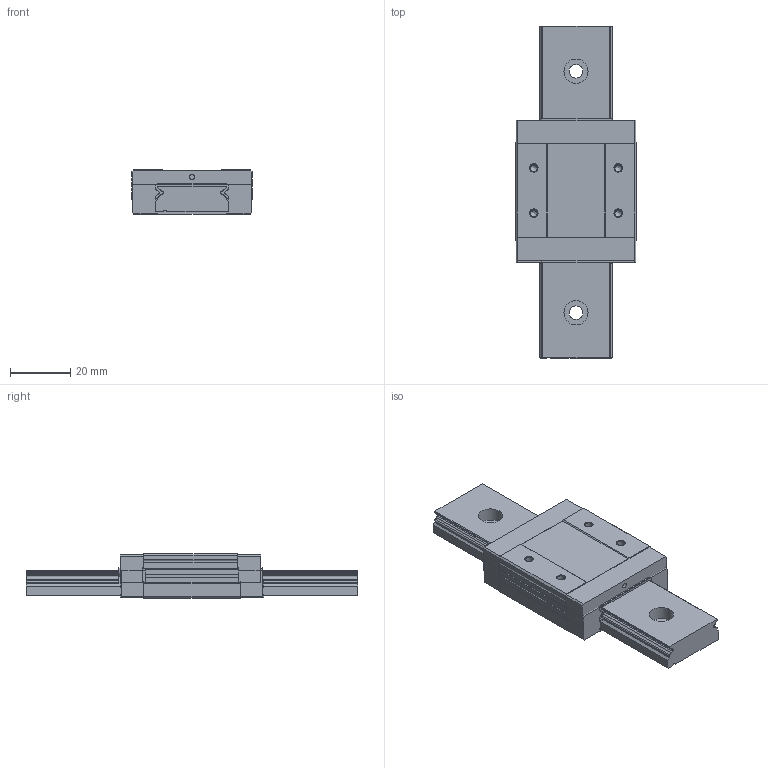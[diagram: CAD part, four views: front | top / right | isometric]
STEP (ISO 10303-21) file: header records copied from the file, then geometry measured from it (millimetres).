
FILE_DESCRIPTION( ( 'Unknown' ), '1' );
FILE_NAME( 'C:/Documents and Settings/Administrator/官帕 拳搁/肯丰 累诀/固聪抿绢 墨促肺弊 累诀 2008斥/3D/SBMW/SBMW-12/SBMW-12.stp', 'Unknown', ( 'Unknown' ), ( 'Unknown' ), 'XStep 1.0', 'Unknown', ' ' );
FILE_SCHEMA( ( 'automotive_design' ) );
Length unit declared in the file: millimetre
Products named in the file (5): Assem1; R; B; E
Bounding box: 40 x 110 x 14.75 mm (x, y, z)
Surface area: 30693.2 mm2
Topology: 8 solids, 8 shells, 378 faces, 1064 edges, 708 vertices
Faces by surface type: plane 202, cylinder 160, cone 16
Full cylindrical faces by diameter (mm): 1.6 x4, 2.459 x8, 4.5 x6, 8 x6
Entity records: 6946 total; most frequent: DIRECTION 1054, CARTESIAN_POINT 1044, ORIENTED_EDGE 1004, EDGE_CURVE 502, AXIS2_PLACEMENT_3D 358, VERTEX_POINT 348, LINE 338, VECTOR 338
